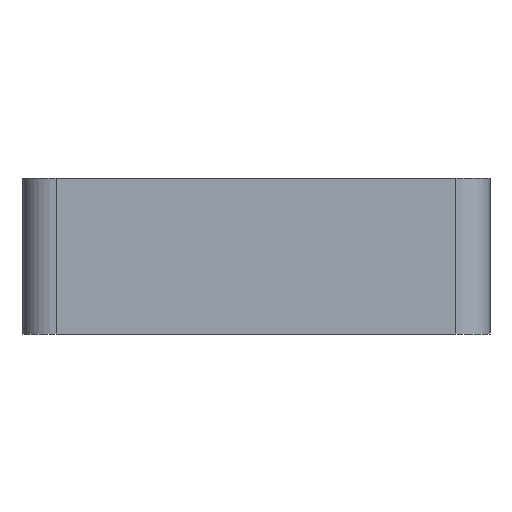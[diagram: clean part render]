
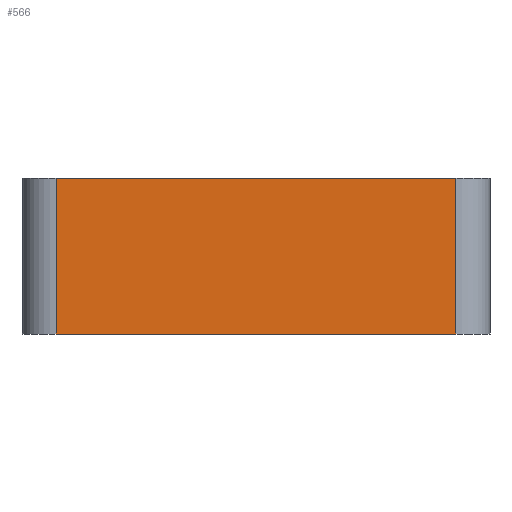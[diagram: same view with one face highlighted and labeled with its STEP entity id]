
A CAD part, front view. The second image highlights one B-rep face of the part: STEP entity #566.
In plain terms, the highlighted planar face has unit normal (0, -1, 0).
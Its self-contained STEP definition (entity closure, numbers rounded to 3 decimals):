
#44 = PLANE('',#45);
#45 = AXIS2_PLACEMENT_3D('',#46,#47,#48);
#46 = CARTESIAN_POINT('',(18.45,37.5,-9.3));
#47 = DIRECTION('',(0.,0.,1.));
#48 = DIRECTION('',(1.,0.,0.));
#72 = CYLINDRICAL_SURFACE('',#73,0.35);
#73 = AXIS2_PLACEMENT_3D('',#74,#75,#76);
#74 = CARTESIAN_POINT('',(18.8,37.85,-10.9));
#75 = DIRECTION('',(0.,0.,1.));
#76 = DIRECTION('',(-1.,-0.,0.));
#100 = PLANE('',#101);
#101 = AXIS2_PLACEMENT_3D('',#102,#103,#104);
#102 = CARTESIAN_POINT('',(18.45,37.5,-10.9));
#103 = DIRECTION('',(0.,0.,1.));
#104 = DIRECTION('',(1.,0.,0.));
#143 = VERTEX_POINT('',#144);
#144 = CARTESIAN_POINT('',(18.8,37.5,-9.3));
#166 = EDGE_CURVE('',#143,#167,#169,.T.);
#167 = VERTEX_POINT('',#168);
#168 = CARTESIAN_POINT('',(22.9,37.5,-9.3));
#169 = SURFACE_CURVE('',#170,(#174,#181),.PCURVE_S1.);
#170 = LINE('',#171,#172);
#171 = CARTESIAN_POINT('',(18.45,37.5,-9.3));
#172 = VECTOR('',#173,1.);
#173 = DIRECTION('',(1.,0.,0.));
#174 = PCURVE('',#44,#175);
#175 = DEFINITIONAL_REPRESENTATION('',(#176),#180);
#176 = LINE('',#177,#178);
#177 = CARTESIAN_POINT('',(0.,0.));
#178 = VECTOR('',#179,1.);
#179 = DIRECTION('',(1.,0.));
#180 = ( GEOMETRIC_REPRESENTATION_CONTEXT(2) 
PARAMETRIC_REPRESENTATION_CONTEXT() REPRESENTATION_CONTEXT('2D SPACE',''
  ) );
#181 = PCURVE('',#182,#187);
#182 = PLANE('',#183);
#183 = AXIS2_PLACEMENT_3D('',#184,#185,#186);
#184 = CARTESIAN_POINT('',(18.45,37.5,-10.9));
#185 = DIRECTION('',(0.,1.,0.));
#186 = DIRECTION('',(0.,0.,1.));
#187 = DEFINITIONAL_REPRESENTATION('',(#188),#192);
#188 = LINE('',#189,#190);
#189 = CARTESIAN_POINT('',(1.6,0.));
#190 = VECTOR('',#191,1.);
#191 = DIRECTION('',(0.,1.));
#192 = ( GEOMETRIC_REPRESENTATION_CONTEXT(2) 
PARAMETRIC_REPRESENTATION_CONTEXT() REPRESENTATION_CONTEXT('2D SPACE',''
  ) );
#215 = CYLINDRICAL_SURFACE('',#216,0.35);
#216 = AXIS2_PLACEMENT_3D('',#217,#218,#219);
#217 = CARTESIAN_POINT('',(22.9,37.85,-10.9));
#218 = DIRECTION('',(0.,0.,1.));
#219 = DIRECTION('',(1.,0.,-0.));
#342 = VERTEX_POINT('',#343);
#343 = CARTESIAN_POINT('',(18.8,37.5,-10.9));
#365 = EDGE_CURVE('',#342,#143,#366,.T.);
#366 = SURFACE_CURVE('',#367,(#371,#378),.PCURVE_S1.);
#367 = LINE('',#368,#369);
#368 = CARTESIAN_POINT('',(18.8,37.5,-10.9));
#369 = VECTOR('',#370,1.);
#370 = DIRECTION('',(0.,0.,1.));
#371 = PCURVE('',#72,#372);
#372 = DEFINITIONAL_REPRESENTATION('',(#373),#377);
#373 = LINE('',#374,#375);
#374 = CARTESIAN_POINT('',(1.571,0.));
#375 = VECTOR('',#376,1.);
#376 = DIRECTION('',(0.,1.));
#377 = ( GEOMETRIC_REPRESENTATION_CONTEXT(2) 
PARAMETRIC_REPRESENTATION_CONTEXT() REPRESENTATION_CONTEXT('2D SPACE',''
  ) );
#378 = PCURVE('',#182,#379);
#379 = DEFINITIONAL_REPRESENTATION('',(#380),#384);
#380 = LINE('',#381,#382);
#381 = CARTESIAN_POINT('',(0.,0.35));
#382 = VECTOR('',#383,1.);
#383 = DIRECTION('',(1.,0.));
#384 = ( GEOMETRIC_REPRESENTATION_CONTEXT(2) 
PARAMETRIC_REPRESENTATION_CONTEXT() REPRESENTATION_CONTEXT('2D SPACE',''
  ) );
#447 = EDGE_CURVE('',#342,#448,#450,.T.);
#448 = VERTEX_POINT('',#449);
#449 = CARTESIAN_POINT('',(22.9,37.5,-10.9));
#450 = SURFACE_CURVE('',#451,(#455,#462),.PCURVE_S1.);
#451 = LINE('',#452,#453);
#452 = CARTESIAN_POINT('',(18.45,37.5,-10.9));
#453 = VECTOR('',#454,1.);
#454 = DIRECTION('',(1.,0.,0.));
#455 = PCURVE('',#100,#456);
#456 = DEFINITIONAL_REPRESENTATION('',(#457),#461);
#457 = LINE('',#458,#459);
#458 = CARTESIAN_POINT('',(0.,0.));
#459 = VECTOR('',#460,1.);
#460 = DIRECTION('',(1.,0.));
#461 = ( GEOMETRIC_REPRESENTATION_CONTEXT(2) 
PARAMETRIC_REPRESENTATION_CONTEXT() REPRESENTATION_CONTEXT('2D SPACE',''
  ) );
#462 = PCURVE('',#182,#463);
#463 = DEFINITIONAL_REPRESENTATION('',(#464),#468);
#464 = LINE('',#465,#466);
#465 = CARTESIAN_POINT('',(0.,0.));
#466 = VECTOR('',#467,1.);
#467 = DIRECTION('',(0.,1.));
#468 = ( GEOMETRIC_REPRESENTATION_CONTEXT(2) 
PARAMETRIC_REPRESENTATION_CONTEXT() REPRESENTATION_CONTEXT('2D SPACE',''
  ) );
#566 = ADVANCED_FACE('',(#567),#182,.F.);
#567 = FACE_BOUND('',#568,.F.);
#568 = EDGE_LOOP('',(#569,#570,#571,#572));
#569 = ORIENTED_EDGE('',*,*,#447,.F.);
#570 = ORIENTED_EDGE('',*,*,#365,.T.);
#571 = ORIENTED_EDGE('',*,*,#166,.T.);
#572 = ORIENTED_EDGE('',*,*,#573,.F.);
#573 = EDGE_CURVE('',#448,#167,#574,.T.);
#574 = SURFACE_CURVE('',#575,(#579,#586),.PCURVE_S1.);
#575 = LINE('',#576,#577);
#576 = CARTESIAN_POINT('',(22.9,37.5,-10.9));
#577 = VECTOR('',#578,1.);
#578 = DIRECTION('',(0.,0.,1.));
#579 = PCURVE('',#182,#580);
#580 = DEFINITIONAL_REPRESENTATION('',(#581),#585);
#581 = LINE('',#582,#583);
#582 = CARTESIAN_POINT('',(0.,4.45));
#583 = VECTOR('',#584,1.);
#584 = DIRECTION('',(1.,0.));
#585 = ( GEOMETRIC_REPRESENTATION_CONTEXT(2) 
PARAMETRIC_REPRESENTATION_CONTEXT() REPRESENTATION_CONTEXT('2D SPACE',''
  ) );
#586 = PCURVE('',#215,#587);
#587 = DEFINITIONAL_REPRESENTATION('',(#588),#592);
#588 = LINE('',#589,#590);
#589 = CARTESIAN_POINT('',(-1.571,0.));
#590 = VECTOR('',#591,1.);
#591 = DIRECTION('',(-0.,1.));
#592 = ( GEOMETRIC_REPRESENTATION_CONTEXT(2) 
PARAMETRIC_REPRESENTATION_CONTEXT() REPRESENTATION_CONTEXT('2D SPACE',''
  ) );
